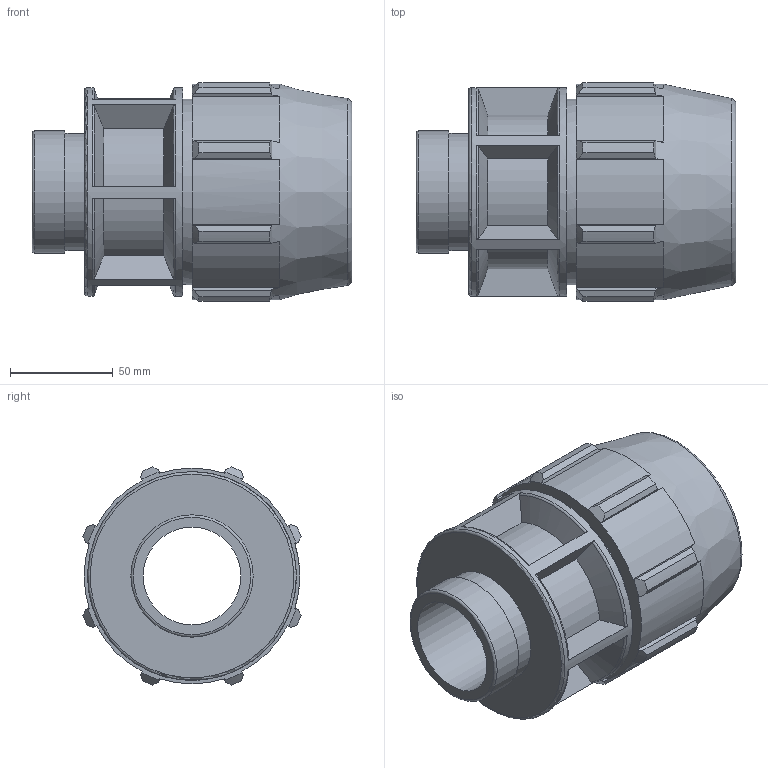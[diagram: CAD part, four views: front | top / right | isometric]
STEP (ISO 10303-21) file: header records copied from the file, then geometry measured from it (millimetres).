
FILE_DESCRIPTION(/* description */ ('PLASSON SHOULDERED ADAPTOR 2''''-2'''''),/* implementation_level */ '2;1');
FILE_NAME(/* name */ 'C:\Dropbox\99-16-3568-Processing Inch\ASTM Compression 2021\0732M\stp\0732M0020020.stp',/* time_stamp */ '2022-11-17T14:30:53+02:00',/* author */ ('KIM'),/* organization */ (''),/* preprocessor_version */ 'ST-DEVELOPER v17.2',/* originating_system */ 'Autodesk Inventor 2019',/* authorisation */ '');
FILE_SCHEMA (('AUTOMOTIVE_DESIGN { 1 0 10303 214 3 1 1 }'));
Length unit declared in the file: inch
Products named in the file (1): 0732M0020020
Bounding box: 155.96 x 106.35 x 106.35 mm (x, y, z)
Volume: 601563.4 mm3; surface area: 99814.3 mm2
Topology: 1 solids, 1 shells, 126 faces, 353 edges, 241 vertices
Faces by surface type: plane 52, cone 31, cylinder 28, torus 15
Full cylindrical faces by diameter (mm): 47.691 x1, 57.074 x1, 59.614 x1, 60.1 x1, 90.424 x1, 101.727 x1
Entity records: 4387 total; most frequent: CARTESIAN_POINT 1049, ORIENTED_EDGE 706, DIRECTION 655, EDGE_CURVE 353, AXIS2_PLACEMENT_3D 255, VERTEX_POINT 241, LINE 145, VECTOR 145
